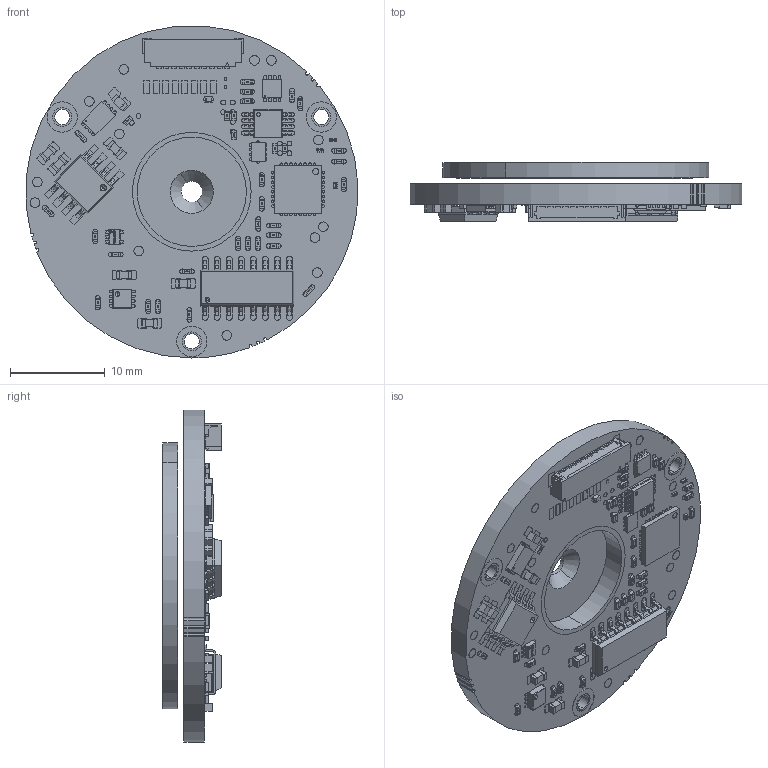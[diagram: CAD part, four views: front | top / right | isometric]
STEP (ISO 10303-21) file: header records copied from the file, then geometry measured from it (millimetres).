
FILE_DESCRIPTION (( 'STEP AP214' ), '1' );
FILE_NAME ('VLX-35 16-15 Endshaft rotor.STEP', '2025-03-23T13:14:15', ( '' ), ( '' ), 'SwSTEP 2.0', 'SolidWorks 2022', '' );
FILE_SCHEMA (( 'AUTOMOTIVE_DESIGN' ));
Length unit declared in the file: millimetre
Products named in the file (5): PB-00142_F 16 C 15; VLX-35 16-15 Endshaft rotor; PB-00183_Fine 16 Coarse 15; PB-00142-00-STP; EA-00142
Assembly tree (4 placements, depth 3):
  VLX-35 16-15 Endshaft rotor
    EA-00142
      PB-00142_F 16 C 15
      PB-00142-00-STP
    PB-00183_Fine 16 Coarse 15
Bounding box: 34.93 x 6.17 x 34.95 mm (x, y, z)
Volume: 2836.9 mm3; surface area: 4230.4 mm2
Topology: 2 solids, 250 shells, 7162 faces, 17697 edges, 11526 vertices
Faces by surface type: plane 4664, cylinder 1191, bspline 1169, sphere 132, torus 4, cone 2
Entity records: 352934 total; most frequent: CARTESIAN_POINT 109447, ORIENTED_EDGE 35106, DIRECTION 29655, EDGE_CURVE 17569, LINE 12811, VECTOR 12811, VERTEX_POINT 11526, AXIS2_PLACEMENT_3D 8422
